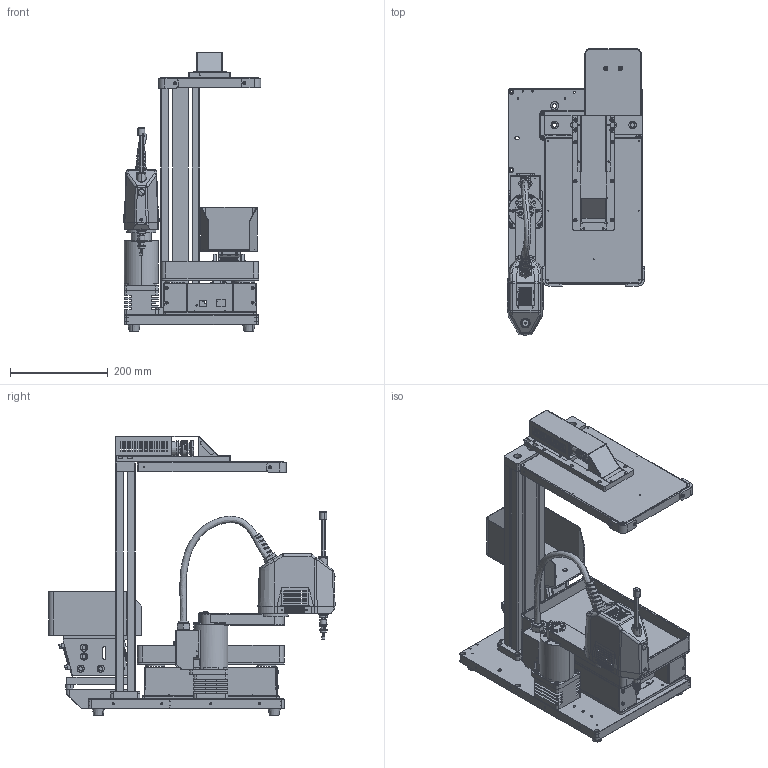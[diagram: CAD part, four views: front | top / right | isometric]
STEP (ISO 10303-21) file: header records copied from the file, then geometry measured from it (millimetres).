
FILE_DESCRIPTION (( 'STEP AP214' ), '1' );
FILE_NAME ('柔性上料套装-大款.STEP', '2026-06-18T10:19:07', ( 'Windows User' ), ( 'P R C' ), 'SwSTEP 2.0', 'SolidWorks 2023', '' );
FILE_SCHEMA (( 'AUTOMOTIVE_DESIGN' ));
Products named in the file (1): 柔性上料套装-大款
Bounding box: 281.13 x 586.39 x 573 mm (x, y, z)
Surface area: 1625827.4 mm2 (no closed solid volume)
Topology: 0 solids, 223 shells, 2319 faces, 10552 edges, 8316 vertices
Faces by surface type: cylinder 1087, plane 931, cone 168, torus 78, bspline 38, sphere 17
Entity records: 120282 total; most frequent: CARTESIAN_POINT 34361, DIRECTION 18225, ORIENTED_EDGE 14749, EDGE_CURVE 10546, VERTEX_POINT 8316, AXIS2_PLACEMENT_3D 6621, VECTOR 4983, LINE 4983
